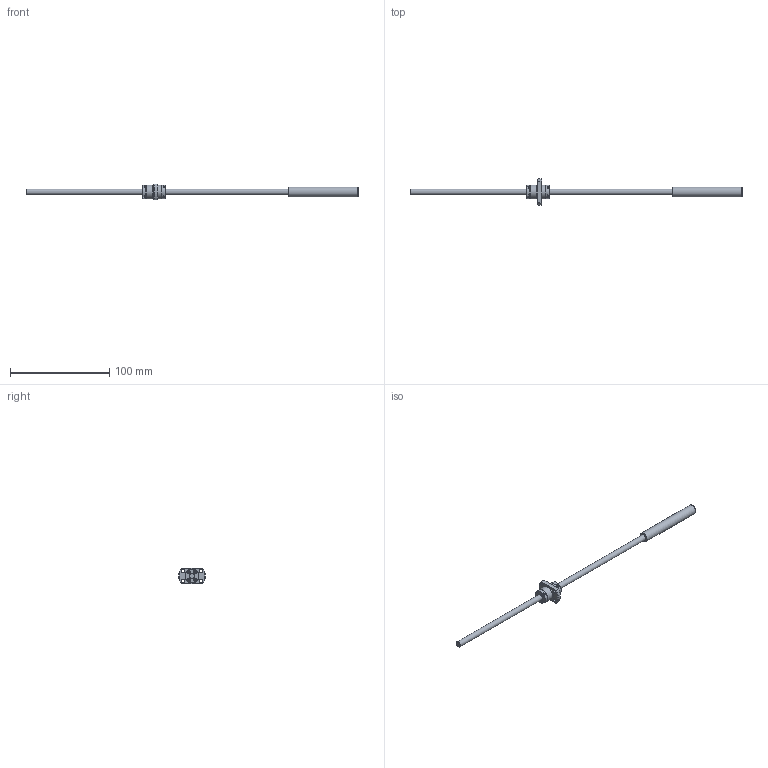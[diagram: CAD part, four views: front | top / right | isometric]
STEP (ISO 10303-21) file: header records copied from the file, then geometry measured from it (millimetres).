
FILE_DESCRIPTION(/* description */ ('STEP AP214'),/* implementation_level */ '2;1');
FILE_NAME(/* name */ 'SRT0610-261R335C7A0X(117.5None)',/* time_stamp */ '2026-08-04T18:46:36+02:00',/* author */ ('License CC BY-ND 4.0'),/* organization */ ('CADENAS'),/* preprocessor_version */ 'ST-DEVELOPER v20',/* originating_system */ 'PARTsolutions',/* authorisation */ ' ');
FILE_SCHEMA (('AUTOMOTIVE_DESIGN {1 0 10303 214 3 1 1}'));
Length unit declared in the file: millimetre
Products named in the file (3): SRT0610-261R335C7A0X(117.5None); SRT0610-261R335ACt7None26Shaft; SRT0610Nut
Assembly tree (2 placements, depth 2):
  SRT0610-261R335C7A0X(117.5None)
    SRT0610-261R335ACt7None26Shaft
    SRT0610Nut
Bounding box: 335 x 27 x 16 mm (x, y, z)
Volume: 16271.3 mm3; surface area: 9919.2 mm2
Topology: 2 solids, 2 shells, 138 faces, 332 edges, 220 vertices
Faces by surface type: plane 100, cylinder 30, cone 8
Full cylindrical faces by diameter (mm): 3 x8, 3.4 x4, 6 x2, 9.7 x1, 13.6 x1, 13.8 x2, 14 x2
Entity records: 3971 total; most frequent: CARTESIAN_POINT 689, DIRECTION 662, ORIENTED_EDGE 612, EDGE_CURVE 306, AXIS2_PLACEMENT_3D 223, VERTEX_POINT 218, LINE 216, VECTOR 216
